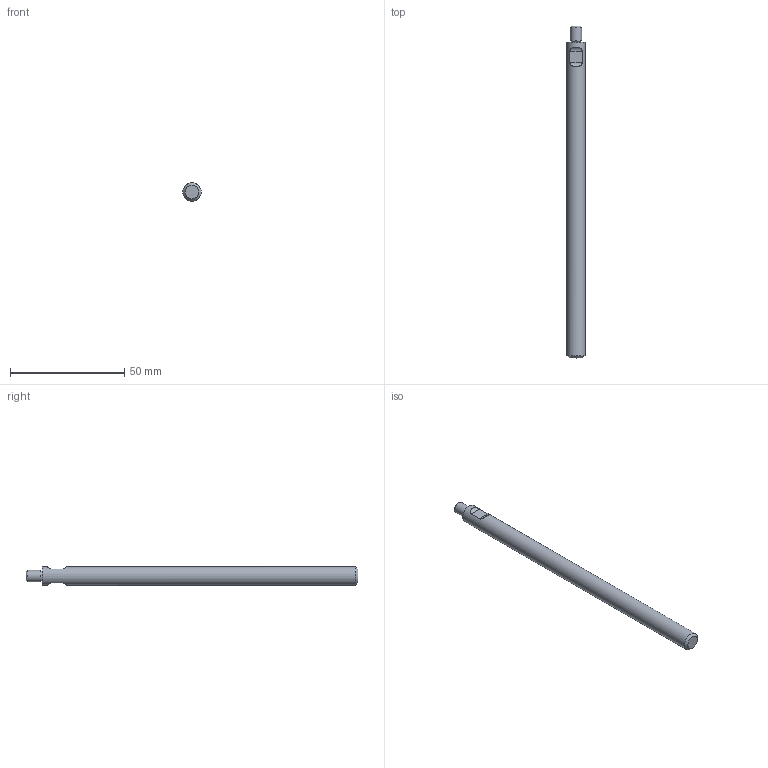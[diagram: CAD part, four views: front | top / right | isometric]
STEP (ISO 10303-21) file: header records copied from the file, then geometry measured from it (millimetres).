
FILE_DESCRIPTION( ( 'STEP AP203' ), '1' );
FILE_NAME( 'p:/temp/worker_40/temp/app_43_02018102213454129718386192d056f_000000_00_00_000000/format_3/E43225.stp', '2018-10-22T11:45:43', ( '' ), ( '' ), ' ', 'PARTsolutions', ' ' );
FILE_SCHEMA( ( 'CONFIG_CONTROL_DESIGN' ) );
Length unit declared in the file: millimetre
Products named in the file (1): _E43225
Bounding box: 8 x 145 x 8 mm (x, y, z)
Volume: 7006.7 mm3; surface area: 3664.6 mm2
Topology: 1 solids, 1 shells, 14 faces, 27 edges, 17 vertices
Faces by surface type: cylinder 6, plane 5, cone 3
Full cylindrical faces by diameter (mm): 5 x1, 8 x1
Entity records: 450 total; most frequent: CARTESIAN_POINT 157, DIRECTION 52, ORIENTED_EDGE 38, AXIS2_PLACEMENT_3D 22, EDGE_LOOP 22, EDGE_CURVE 19, FACE_OUTER_BOUND 16, VERTEX_POINT 15
